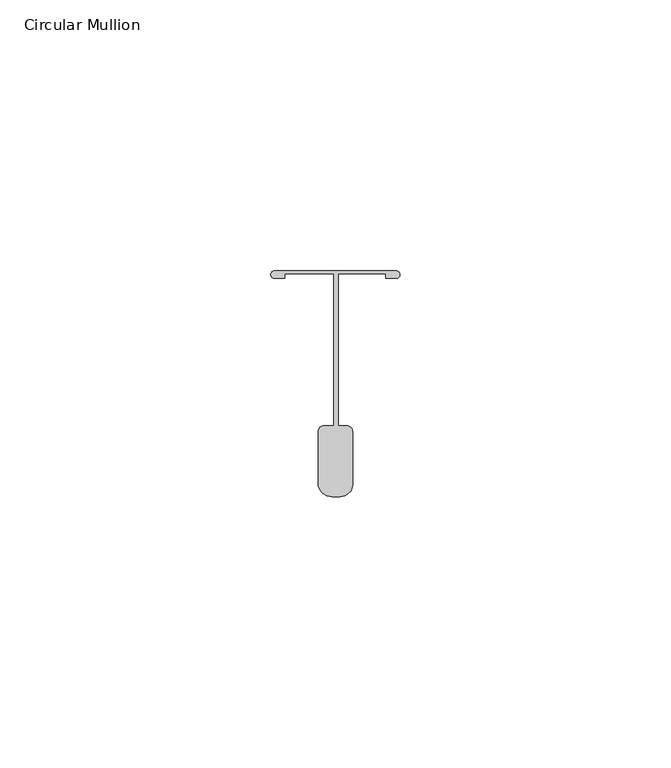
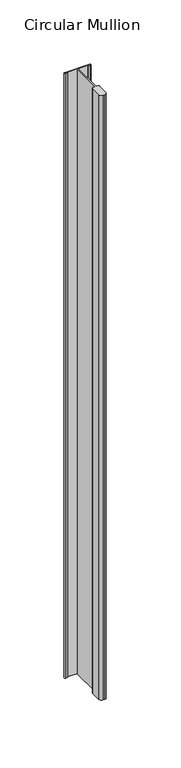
"""IFC4 building model written with IfcOpenShell, lengths in millimetres: member geometry, Circular Mullion : Main Runners."""

from ifc_helpers import new_model, si_unit, point, frame, frame_2d, origin, place, context, project, spatial, polyline, circle_curve, trimmed, segment, composite_curve, outline, extrude, source, transform, mapped, element, save


def circular_mullion_88ff0090(model_context):
    return source(origin(), model_context, "Body", "SweptSolid", [
        extrude(outline(composite_curve([segment(trimmed(circle_curve(frame_2d((2.0974658, -23.0292967)), 1.0775342), [point((2.0974658, -21.9517625))], [point((3.175, -23.0292967))], False, "CARTESIAN"), True, "CONTINUOUS"), segment(polyline([(3.175, -23.0292967), (3.175, -32.7504623)]), True, "CONTINUOUS"), segment(trimmed(circle_curve(frame_2d((0.8836999, -32.7504623)), 2.2913001), [point((3.175, -32.7504623))], [point((0.8836999, -35.0417625))], False, "CARTESIAN"), True, "CONTINUOUS"), segment(polyline([(0.8836999, -35.0417625), (-0.6508994, -35.0417625)]), True, "CONTINUOUS"), segment(trimmed(circle_curve(frame_2d((-0.6508994, -32.5176619)), 2.5241006), [point((-0.6508994, -35.0417625))], [point((-3.175, -32.5176619))], False, "CARTESIAN"), True, "CONTINUOUS"), segment(polyline([(-3.175, -32.5176619), (-3.175, -23.0292967)]), True, "CONTINUOUS"), segment(trimmed(circle_curve(frame_2d((-2.0974658, -23.0292967)), 1.0775342), [point((-3.175, -23.0292967))], [point((-2.0974658, -21.9517625))], False, "CARTESIAN"), True, "CONTINUOUS"), segment(polyline([(-2.0974658, -21.9517625), (-0.3211248, -21.9517625), (-0.3211248, 6.0459958), (-9.318924, 6.0459958), (-9.318924, 5.2459958), (-11.2221291, 5.2459958)]), True, "CONTINUOUS"), segment(trimmed(circle_curve(frame_2d((-11.2221291, 5.9301166)), 0.6841209), [point((-11.2221291, 5.2459958))], [point((-11.90625, 5.9301166))], False, "CARTESIAN"), True, "CONTINUOUS"), segment(trimmed(circle_curve(frame_2d((-11.2221291, 5.9301166)), 0.6841209), [point((-11.90625, 5.9301166))], [point((-11.2221291, 6.6142375))], False, "CARTESIAN"), True, "CONTINUOUS"), segment(polyline([(-11.2221291, 6.6142375), (11.2221291, 6.6142375)]), True, "CONTINUOUS"), segment(trimmed(circle_curve(frame_2d((11.2221291, 5.9301166)), 0.6841209), [point((11.2221291, 6.6142375))], [point((11.90625, 5.9301166))], False, "CARTESIAN"), True, "CONTINUOUS"), segment(trimmed(circle_curve(frame_2d((11.2221291, 5.9301166)), 0.6841209), [point((11.90625, 5.9301166))], [point((11.2221291, 5.2459958))], False, "CARTESIAN"), True, "CONTINUOUS"), segment(polyline([(11.2221291, 5.2459958), (9.318924, 5.2459958), (9.318924, 6.0459958), (0.5117194, 6.0459958), (0.5117194, -21.9517625), (2.0974658, -21.9517625)]), True, "CONTINUOUS")], self_intersect=False)), frame((0.0, 0.0, -576.1875), z_axis=(0.0, 0.0, 1.0), x_axis=(1.0, 0.0, 0.0)), (0.0, 0.0, 1.0), 576.1875),
    ])


if __name__ == "__main__":
    model = new_model("IFC4")
    model_context = context("Model", 3, world=origin())
    ifc_project = project(units=[si_unit("LENGTHUNIT", "METRE", prefix="MILLI")], contexts=[model_context])
    site = spatial("IfcSite", under=ifc_project)
    building = spatial("IfcBuilding", under=site)
    placement = place(None, origin())
    circular_mullion_shape = circular_mullion_88ff0090(model_context)
    element("IfcMember", 1, ObjectType="Circular Mullion : Main Runners", at=placement, inside=building, context=model_context, shape_type="MappedRepresentation", body=[
        mapped(circular_mullion_shape, transform((0.0, 0.0, 0.0), x_axis=(1.0, 0.0, 0.0), y_axis=(0.0, 1.0, 0.0), z_axis=(0.0, 0.0, 1.0))),
    ])
    save(model, "model.ifc")
